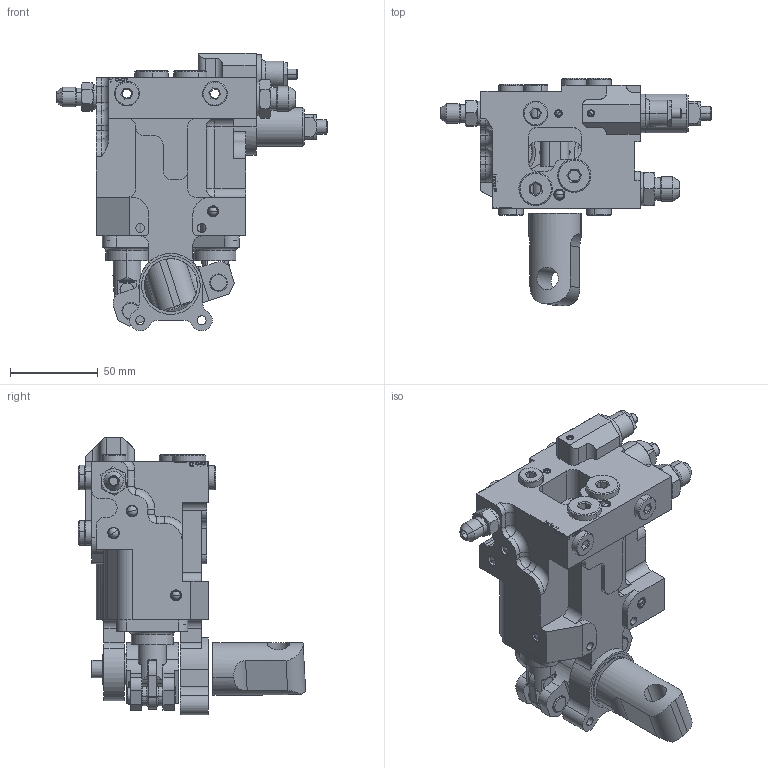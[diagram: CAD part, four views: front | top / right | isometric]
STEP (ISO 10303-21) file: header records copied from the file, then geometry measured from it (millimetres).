
FILE_DESCRIPTION (( 'STEP AP203' ), '1' );
FILE_NAME ('IPA_1225_R.STEP', '2018-05-23T13:05:03', ( '' ), ( '' ), 'SwSTEP 2.0', 'SolidWorks 2015', '' );
FILE_SCHEMA (( 'CONFIG_CONTROL_DESIGN' ));
Length unit declared in the file: millimetre
Products named in the file (1): IPA_1225_R
Bounding box: 154 x 129.23 x 158 mm (x, y, z)
Surface area: 97078.4 mm2 (no closed solid volume)
Topology: 0 solids, 59 shells, 1068 faces, 3363 edges, 2271 vertices
Faces by surface type: plane 477, cylinder 327, cone 149, torus 43, bspline 42, sphere 30
Entity records: 41569 total; most frequent: CARTESIAN_POINT 12261, DIRECTION 6085, ORIENTED_EDGE 5672, EDGE_CURVE 3333, VERTEX_POINT 2271, AXIS2_PLACEMENT_3D 2119, LINE 1847, VECTOR 1847
